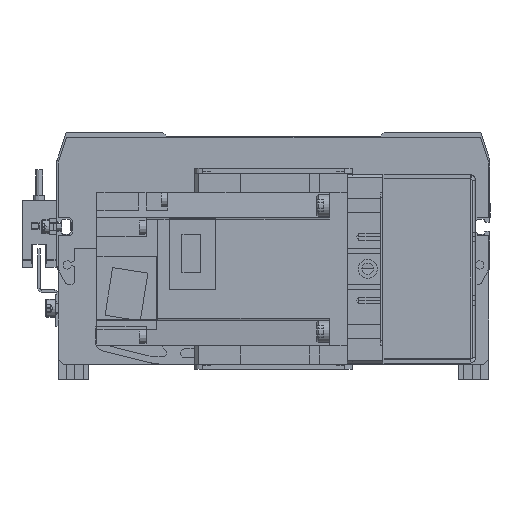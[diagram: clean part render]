
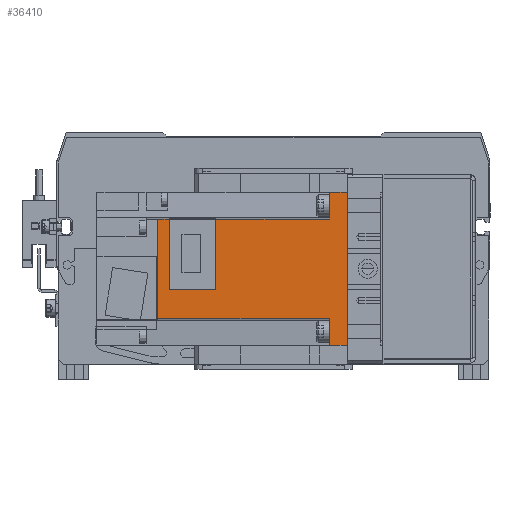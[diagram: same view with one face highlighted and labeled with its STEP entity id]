
A CAD part, front view. The second image highlights one B-rep face of the part: STEP entity #36410.
In plain terms, the highlighted planar face has unit normal (0, -1, 0) as drawn and (1, 0, 0) by its records, which use the part's own axes.
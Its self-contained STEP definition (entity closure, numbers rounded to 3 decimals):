
#238 = AXIS2_PLACEMENT_3D ( 'NONE', #40058, #4539, #8133 ) ;
#558 = CARTESIAN_POINT ( 'NONE',  ( 30., 7., 30. ) ) ;
#636 = ORIENTED_EDGE ( 'NONE', *, *, #25885, .F. ) ;
#1198 = LINE ( 'NONE', #5901, #31065 ) ;
#1709 = VECTOR ( 'NONE', #12557, 1000. ) ;
#1723 = ORIENTED_EDGE ( 'NONE', *, *, #11818, .F. ) ;
#2657 = LINE ( 'NONE', #10543, #45950 ) ;
#2946 = ORIENTED_EDGE ( 'NONE', *, *, #8025, .F. ) ;
#2955 = LINE ( 'NONE', #17307, #30542 ) ;
#3190 = CARTESIAN_POINT ( 'NONE',  ( 30., 51.7, 8. ) ) ;
#3471 = EDGE_CURVE ( 'NONE', #37881, #12579, #2955, .T. ) ;
#3887 = DIRECTION ( 'NONE',  ( 0., 0., 1. ) ) ;
#4444 = ORIENTED_EDGE ( 'NONE', *, *, #14070, .F. ) ;
#4539 = DIRECTION ( 'NONE',  ( -1., 0., 0. ) ) ;
#4778 = VECTOR ( 'NONE', #9375, 1000. ) ;
#5901 = CARTESIAN_POINT ( 'NONE',  ( 30., 74.5, 8. ) ) ;
#6051 = EDGE_LOOP ( 'NONE', ( #4444, #16443, #1723, #20007, #45962, #11045, #27720, #15371, #7043, #2946, #636, #7816 ) ) ;
#6343 = EDGE_CURVE ( 'NONE', #37881, #40370, #24650, .T. ) ;
#6745 = CARTESIAN_POINT ( 'NONE',  ( 30., 74.5, 30. ) ) ;
#6930 = VERTEX_POINT ( 'NONE', #3190 ) ;
#6985 = EDGE_CURVE ( 'NONE', #12579, #42825, #20634, .T. ) ;
#7043 = ORIENTED_EDGE ( 'NONE', *, *, #42543, .F. ) ;
#7466 = LINE ( 'NONE', #29649, #45144 ) ;
#7695 = FACE_OUTER_BOUND ( 'NONE', #6051, .T. ) ;
#7784 = DIRECTION ( 'NONE',  ( 0., 0., -1. ) ) ;
#7816 = ORIENTED_EDGE ( 'NONE', *, *, #34664, .F. ) ;
#8025 = EDGE_CURVE ( 'NONE', #6930, #27524, #35156, .T. ) ;
#8133 = DIRECTION ( 'NONE',  ( 0., 0., 1. ) ) ;
#8352 = CARTESIAN_POINT ( 'NONE',  ( 30., 7., -30. ) ) ;
#8517 = VERTEX_POINT ( 'NONE', #9342 ) ;
#8541 = CARTESIAN_POINT ( 'NONE',  ( 30., 69.85, 8. ) ) ;
#9033 = CARTESIAN_POINT ( 'NONE',  ( 30., 7., 30. ) ) ;
#9342 = CARTESIAN_POINT ( 'NONE',  ( 30., 7., -19.515 ) ) ;
#9375 = DIRECTION ( 'NONE',  ( 0., 0., -1. ) ) ;
#10240 = CARTESIAN_POINT ( 'NONE',  ( 30., 74.5, -30. ) ) ;
#10374 = CARTESIAN_POINT ( 'NONE',  ( 30., 74.5, -19.515 ) ) ;
#10543 = CARTESIAN_POINT ( 'NONE',  ( 30., 74.5, -19.515 ) ) ;
#10546 = DIRECTION ( 'NONE',  ( 0., 1., 0. ) ) ;
#11041 = EDGE_CURVE ( 'NONE', #30140, #21652, #12442, .T. ) ;
#11045 = ORIENTED_EDGE ( 'NONE', *, *, #3471, .T. ) ;
#11818 = EDGE_CURVE ( 'NONE', #35599, #30140, #38910, .T. ) ;
#12442 = LINE ( 'NONE', #40169, #13014 ) ;
#12557 = DIRECTION ( 'NONE',  ( 0., 1., 0. ) ) ;
#12579 = VERTEX_POINT ( 'NONE', #14298 ) ;
#13014 = VECTOR ( 'NONE', #7784, 1000. ) ;
#14070 = EDGE_CURVE ( 'NONE', #21652, #22287, #30274, .T. ) ;
#14298 = CARTESIAN_POINT ( 'NONE',  ( 30., 0., -30. ) ) ;
#15371 = ORIENTED_EDGE ( 'NONE', *, *, #46380, .F. ) ;
#16443 = ORIENTED_EDGE ( 'NONE', *, *, #11041, .F. ) ;
#17049 = DIRECTION ( 'NONE',  ( 0., -1., 0. ) ) ;
#17238 = CARTESIAN_POINT ( 'NONE',  ( 30., 0., 30. ) ) ;
#17307 = CARTESIAN_POINT ( 'NONE',  ( 30., 0., 0. ) ) ;
#20007 = ORIENTED_EDGE ( 'NONE', *, *, #45757, .F. ) ;
#20634 = LINE ( 'NONE', #10240, #22367 ) ;
#21652 = VERTEX_POINT ( 'NONE', #40331 ) ;
#21663 = VECTOR ( 'NONE', #3887, 1000. ) ;
#21757 = DIRECTION ( 'NONE',  ( 0., -1., 0. ) ) ;
#22287 = VERTEX_POINT ( 'NONE', #23335 ) ;
#22367 = VECTOR ( 'NONE', #10546, 1000. ) ;
#23335 = CARTESIAN_POINT ( 'NONE',  ( 30., 69.85, -19.515 ) ) ;
#23833 = VECTOR ( 'NONE', #32382, 1000. ) ;
#24650 = LINE ( 'NONE', #6745, #35860 ) ;
#25553 = DIRECTION ( 'NONE',  ( 0., 0., -1. ) ) ;
#25885 = EDGE_CURVE ( 'NONE', #35348, #6930, #1198, .T. ) ;
#27065 = CARTESIAN_POINT ( 'NONE',  ( 30., 74.5, 19.515 ) ) ;
#27524 = VERTEX_POINT ( 'NONE', #27758 ) ;
#27720 = ORIENTED_EDGE ( 'NONE', *, *, #6985, .T. ) ;
#27758 = CARTESIAN_POINT ( 'NONE',  ( 30., 51.7, -19.515 ) ) ;
#28012 = DIRECTION ( 'NONE',  ( 0., 0., -1. ) ) ;
#29649 = CARTESIAN_POINT ( 'NONE',  ( 30., 7., 30. ) ) ;
#30140 = VERTEX_POINT ( 'NONE', #41034 ) ;
#30274 = LINE ( 'NONE', #10374, #40945 ) ;
#30542 = VECTOR ( 'NONE', #28012, 1000. ) ;
#31065 = VECTOR ( 'NONE', #17049, 1000. ) ;
#31217 = LINE ( 'NONE', #32529, #21663 ) ;
#32382 = DIRECTION ( 'NONE',  ( 0., 0., -1. ) ) ;
#32529 = CARTESIAN_POINT ( 'NONE',  ( 30., 69.85, 30. ) ) ;
#34664 = EDGE_CURVE ( 'NONE', #22287, #35348, #31217, .T. ) ;
#35108 = LINE ( 'NONE', #558, #23833 ) ;
#35156 = LINE ( 'NONE', #41487, #4778 ) ;
#35348 = VERTEX_POINT ( 'NONE', #8541 ) ;
#35599 = VERTEX_POINT ( 'NONE', #45473 ) ;
#35746 = DIRECTION ( 'NONE',  ( 0., -1., 0. ) ) ;
#35860 = VECTOR ( 'NONE', #43061, 1000. ) ;
#36410 = ADVANCED_FACE ( 'NONE', ( #7695 ), #36454, .F. ) ;
#36454 = PLANE ( 'NONE',  #238 ) ;
#37881 = VERTEX_POINT ( 'NONE', #17238 ) ;
#38910 = LINE ( 'NONE', #27065, #1709 ) ;
#40058 = CARTESIAN_POINT ( 'NONE',  ( 30., 74.5, 30. ) ) ;
#40169 = CARTESIAN_POINT ( 'NONE',  ( 30., 74.5, 30. ) ) ;
#40331 = CARTESIAN_POINT ( 'NONE',  ( 30., 74.5, -19.515 ) ) ;
#40370 = VERTEX_POINT ( 'NONE', #9033 ) ;
#40945 = VECTOR ( 'NONE', #21757, 1000. ) ;
#41034 = CARTESIAN_POINT ( 'NONE',  ( 30., 74.5, 19.515 ) ) ;
#41487 = CARTESIAN_POINT ( 'NONE',  ( 30., 51.7, 30. ) ) ;
#42543 = EDGE_CURVE ( 'NONE', #27524, #8517, #2657, .T. ) ;
#42825 = VERTEX_POINT ( 'NONE', #8352 ) ;
#43061 = DIRECTION ( 'NONE',  ( 0., 1., 0. ) ) ;
#45144 = VECTOR ( 'NONE', #25553, 1000. ) ;
#45473 = CARTESIAN_POINT ( 'NONE',  ( 30., 7., 19.515 ) ) ;
#45757 = EDGE_CURVE ( 'NONE', #40370, #35599, #35108, .T. ) ;
#45950 = VECTOR ( 'NONE', #35746, 1000. ) ;
#45962 = ORIENTED_EDGE ( 'NONE', *, *, #6343, .F. ) ;
#46380 = EDGE_CURVE ( 'NONE', #8517, #42825, #7466, .T. ) ;
